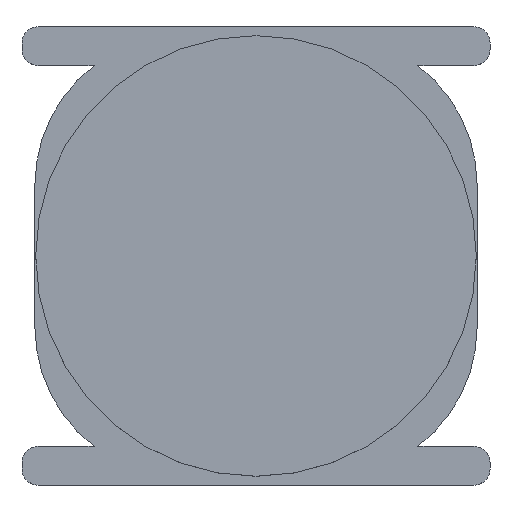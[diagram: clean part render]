
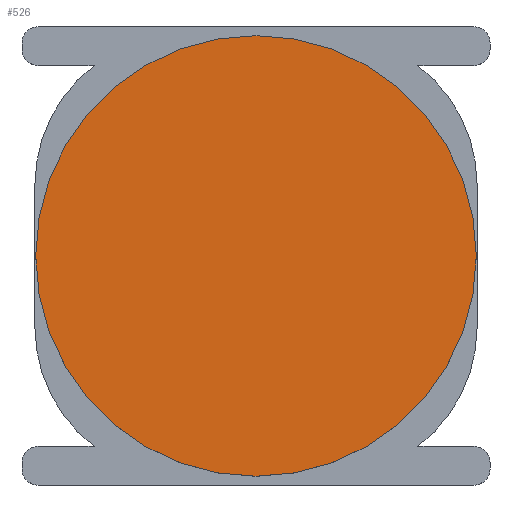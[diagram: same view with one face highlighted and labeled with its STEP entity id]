
A CAD part, top view. The second image highlights one B-rep face of the part: STEP entity #526.
In plain terms, the highlighted planar face has unit normal (0, 0, 1).
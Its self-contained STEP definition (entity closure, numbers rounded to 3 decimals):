
#18=PLANE('',#574);
#36=FACE_OUTER_BOUND('',#66,.T.);
#66=EDGE_LOOP('',(#362));
#197=CIRCLE('',#572,13.65);
#225=VERTEX_POINT('',#802);
#278=EDGE_CURVE('',#225,#225,#197,.T.);
#362=ORIENTED_EDGE('',*,*,#278,.F.);
#526=ADVANCED_FACE('',(#36),#18,.T.);
#572=AXIS2_PLACEMENT_3D('',#803,#638,#639);
#574=AXIS2_PLACEMENT_3D('',#807,#643,#644);
#638=DIRECTION('center_axis',(0.,0.,-1.));
#639=DIRECTION('ref_axis',(1.,0.,0.));
#643=DIRECTION('center_axis',(0.,0.,1.));
#644=DIRECTION('ref_axis',(1.,0.,0.));
#802=CARTESIAN_POINT('',(-13.65,-47.,-0.65));
#803=CARTESIAN_POINT('Origin',(0.,-47.,-0.65));
#807=CARTESIAN_POINT('Origin',(-50.,-80.,-0.65));
